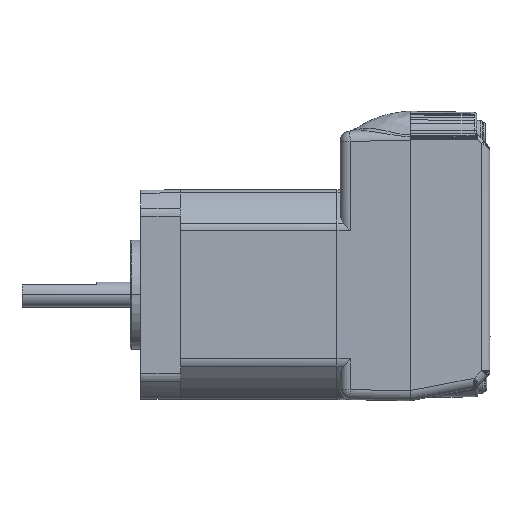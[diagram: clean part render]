
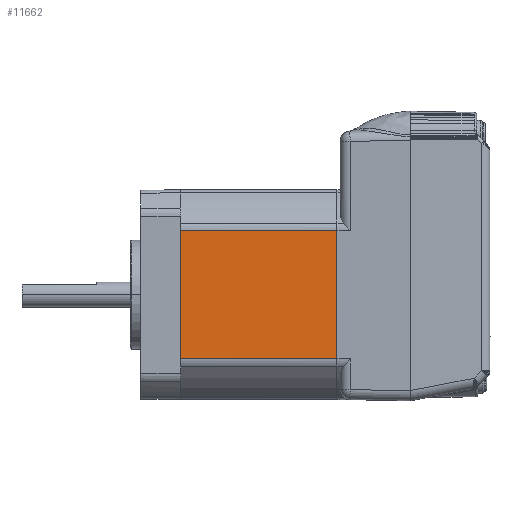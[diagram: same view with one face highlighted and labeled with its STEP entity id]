
A CAD part, left-side view. The second image highlights one B-rep face of the part: STEP entity #11662.
In plain terms, the highlighted planar face has unit normal (-1, 0, 0).
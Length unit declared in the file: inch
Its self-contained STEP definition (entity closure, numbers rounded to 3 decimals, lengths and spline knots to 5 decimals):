
#9488=EDGE_CURVE('',#16659,#18511,#23913,.T.);
#11662=ADVANCED_FACE('MDrive17 Plus[9]',(#26285),#26286,.T.);
#11761=VERTEX_POINT('',#26392);
#13288=EDGE_CURVE('',#16178,#11761,#28045,.T.);
#13468=EDGE_CURVE('',#16178,#16659,#28242,.F.);
#16178=VERTEX_POINT('',#31213);
#16659=VERTEX_POINT('',#31738);
#18511=VERTEX_POINT('',#33760);
#19420=EDGE_CURVE('',#18511,#11761,#34750,.F.);
#23913=LINE('',#49950,#49951);
#26285=FACE_OUTER_BOUND('',#59933,.T.);
#26286=PLANE('',#59934);
#26392=CARTESIAN_POINT('',(-1.68441,2.24526,0.45634));
#28045=LINE('',#67199,#67200);
#28242=LINE('',#67945,#67946);
#31213=CARTESIAN_POINT('',(-1.68441,1.00526,0.45634));
#31738=CARTESIAN_POINT('',(-1.68441,1.00526,-0.5621));
#33760=CARTESIAN_POINT('',(-1.68441,2.24526,-0.5621));
#34750=LINE('',#96085,#96086);
#49950=CARTESIAN_POINT('',(-1.68441,1.57521,-0.5621));
#49951=VECTOR('',#104152,1.0);
#59933=EDGE_LOOP('',(#105982,#105983,#105984,#105985));
#59934=AXIS2_PLACEMENT_3D('',#105986,#105987,#105988);
#67199=CARTESIAN_POINT('',(-1.68441,1.70281,0.45634));
#67200=VECTOR('',#107287,1.0);
#67945=CARTESIAN_POINT('',(-1.68441,1.00526,0.20219));
#67946=VECTOR('',#107445,1.0);
#96085=CARTESIAN_POINT('',(-1.68441,2.24526,0.20172));
#96086=VECTOR('',#112708,1.0);
#104152=DIRECTION('',(0.0,1.0,0.0));
#105982=ORIENTED_EDGE('',*,*,#19420,.F.);
#105983=ORIENTED_EDGE('',*,*,#9488,.F.);
#105984=ORIENTED_EDGE('',*,*,#13468,.F.);
#105985=ORIENTED_EDGE('',*,*,#13288,.T.);
#105986=CARTESIAN_POINT('',(-1.68441,1.57521,0.45633));
#105987=DIRECTION('',(-1.0,0.0,0.0));
#105988=DIRECTION('',(0.0,0.0,1.0));
#107287=DIRECTION('',(0.0,1.0,0.0));
#107445=DIRECTION('',(0.0,0.,1.0));
#112708=DIRECTION('',(0.0,0.,-1.0));
